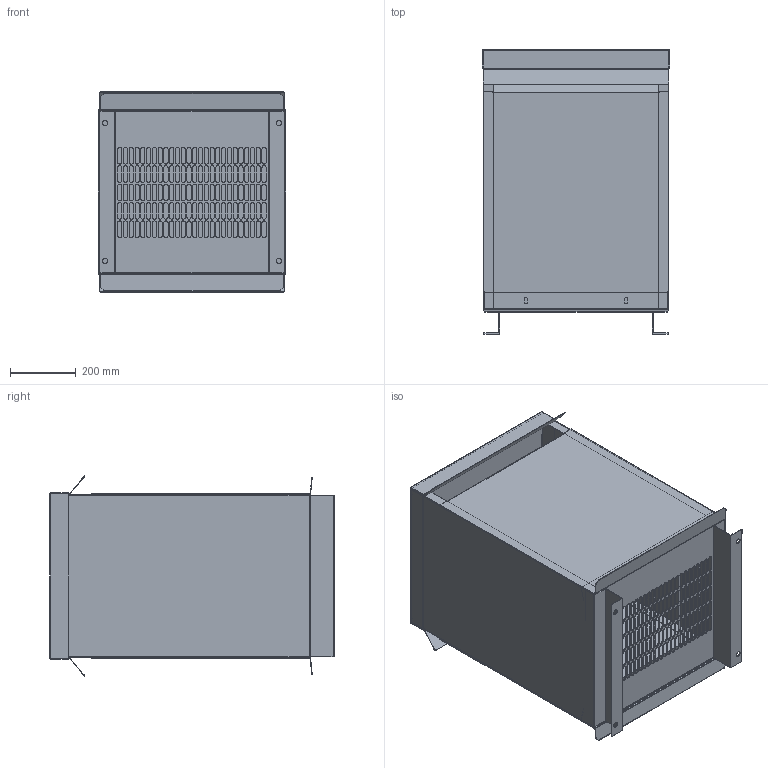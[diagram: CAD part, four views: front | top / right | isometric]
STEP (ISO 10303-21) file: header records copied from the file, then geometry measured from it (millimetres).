
FILE_DESCRIPTION (( 'STEP AP203' ), '1' );
FILE_NAME ('MT-DOE16-FP-3P-480D-3KVA-400Y.231-N3R.STEP', '2024-10-22T20:55:34', ( '' ), ( '' ), 'SwSTEP 2.0', 'SolidWorks 2020', '' );
FILE_SCHEMA (( 'CONFIG_CONTROL_DESIGN' ));
Length unit declared in the file: inch
Products named in the file (8): MT-DOE16-FP-3P-480D-3KVA-400Y.231-N3R-2; MT-DOE16-FP-3P-480D-3KVA-400Y.231-N3R; MT-DOE16-FP-3P-480D-3KVA-400Y.231-N3R-3; MT-DOE16-FP-3P-480D-3KVA-400Y.231-N3R-5; MT-DOE16-FP-3P-480D-3KVA-400Y.231-N3R-4; 282657 Lower Weather Guard_22; 282657 Top Weather Guard_22.38-.18; MT-DOE16-FP-3P-480D-3KVA-400Y.231-N3R-1
Assembly tree (12 placements, depth 2):
  MT-DOE16-FP-3P-480D-3KVA-400Y.231-N3R
    MT-DOE16-FP-3P-480D-3KVA-400Y.231-N3R-2  x2
    MT-DOE16-FP-3P-480D-3KVA-400Y.231-N3R-1  x2
    MT-DOE16-FP-3P-480D-3KVA-400Y.231-N3R-3
    282657 Top Weather Guard_22.38-.18  x2
    MT-DOE16-FP-3P-480D-3KVA-400Y.231-N3R-4
    MT-DOE16-FP-3P-480D-3KVA-400Y.231-N3R-5  x2
    282657 Lower Weather Guard_22  x2
Bounding box: 568.45 x 863.59 x 608.27 mm (x, y, z)
Volume: 6505501 mm3; surface area: 5870911.9 mm2
Topology: 12 solids, 12 shells, 846 faces, 2306 edges, 1484 vertices
Faces by surface type: plane 488, cylinder 342, bspline 16
Entity records: 24915 total; most frequent: CARTESIAN_POINT 4455, DIRECTION 4015, ORIENTED_EDGE 4010, EDGE_CURVE 2005, LINE 1395, VECTOR 1395, AXIS2_PLACEMENT_3D 1310, VERTEX_POINT 1302
